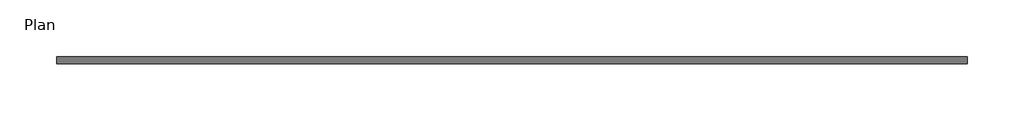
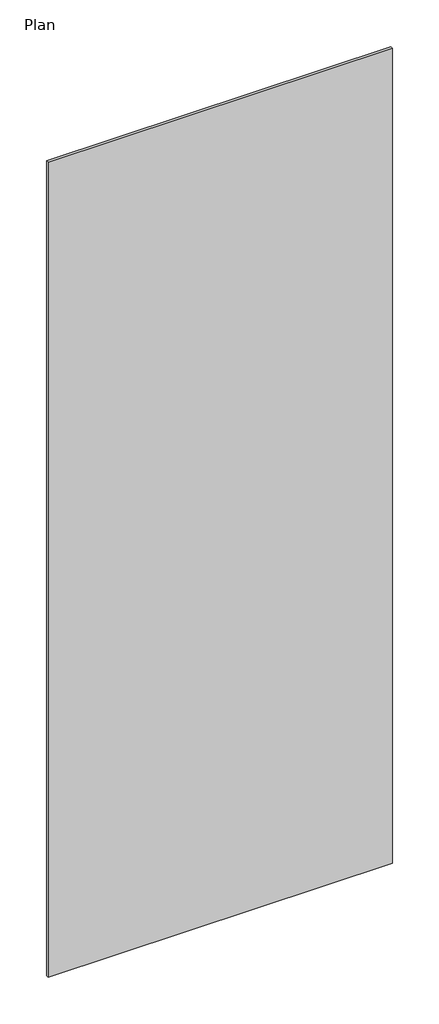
# One storey: 1 proxy.
"""IFC4 building model written with IfcOpenShell, lengths in millimetres."""

from ifc_helpers import new_model, si_unit, origin, place, context, project, spatial, transform, mapped, element, save
from components import generic_models_780f60a9

model = new_model("IFC4")

# Units and contexts
model_context = context("Model", 3, world=origin())
ifc_project = project(units=[si_unit("LENGTHUNIT", "METRE", prefix="MILLI")], contexts=[model_context])

# Site, building, storey
site = spatial("IfcSite", under=ifc_project)
building = spatial("IfcBuilding", under=site)
storey = spatial("IfcBuildingStorey", under=building, Name="Plan", Elevation=0.0)

# Proxy
placement = place(None, origin())
generic_models_shape = generic_models_780f60a9(model_context)
element("IfcBuildingElementProxy", 1, Name="AQUAPANEL showcase solid : AQUAPANEL showcase solid", ObjectType="AQUAPANEL showcase solid : AQUAPANEL showcase solid", at=placement, inside=storey, context=model_context, shape_type="MappedRepresentation", body=[
    mapped(generic_models_shape, transform((0.0, 0.0, 0.0), x_axis=(1.0, 0.0, 0.0), y_axis=(0.0, 1.0, 0.0), z_axis=(0.0, 0.0, 1.0))),
])

save(model, "model.ifc")
